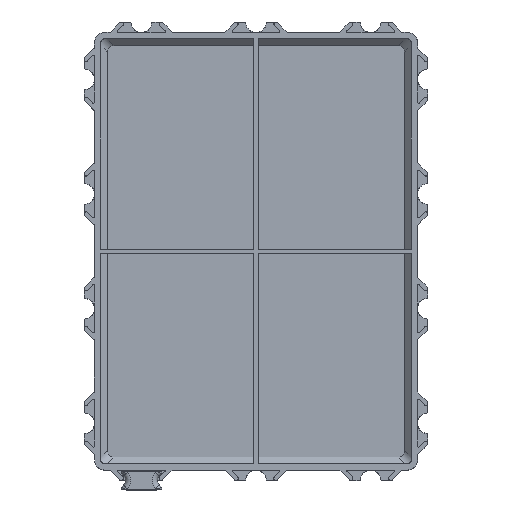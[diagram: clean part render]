
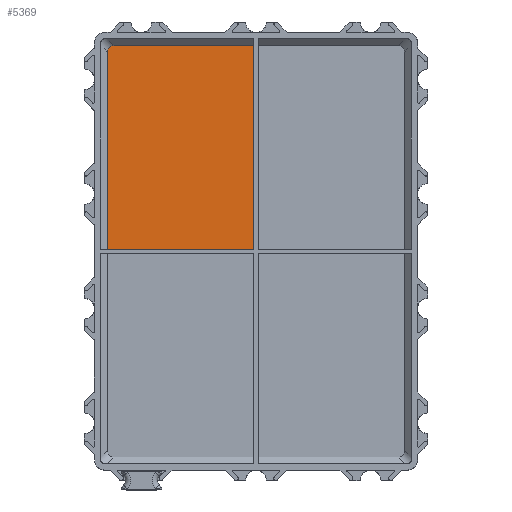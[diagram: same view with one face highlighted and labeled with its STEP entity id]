
A CAD part, top view. The second image highlights one B-rep face of the part: STEP entity #5369.
In plain terms, the highlighted planar face has unit normal (0, 0, 1).
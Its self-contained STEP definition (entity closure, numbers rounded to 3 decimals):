
#334=ELLIPSE('',#5679,3.118,1.8);
#429=FACE_OUTER_BOUND('',#711,.T.);
#711=EDGE_LOOP('',(#3366,#3367,#3368,#3369,#3370));
#1008=LINE('',#7893,#1520);
#1012=LINE('',#7904,#1524);
#1020=LINE('',#7924,#1532);
#1021=LINE('',#7926,#1533);
#1520=VECTOR('',#6252,10.);
#1524=VECTOR('',#6262,10.);
#1532=VECTOR('',#6280,10.);
#1533=VECTOR('',#6281,10.);
#2029=VERTEX_POINT('',#7885);
#2032=VERTEX_POINT('',#7891);
#2036=VERTEX_POINT('',#7903);
#2043=VERTEX_POINT('',#7923);
#2044=VERTEX_POINT('',#7925);
#2552=EDGE_CURVE('',#2029,#2032,#1008,.T.);
#2557=EDGE_CURVE('',#2036,#2029,#1012,.T.);
#2567=EDGE_CURVE('',#2032,#2043,#1020,.T.);
#2568=EDGE_CURVE('',#2043,#2044,#1021,.T.);
#2569=EDGE_CURVE('',#2044,#2036,#334,.T.);
#3366=ORIENTED_EDGE('',*,*,#2552,.T.);
#3367=ORIENTED_EDGE('',*,*,#2567,.T.);
#3368=ORIENTED_EDGE('',*,*,#2568,.T.);
#3369=ORIENTED_EDGE('',*,*,#2569,.T.);
#3370=ORIENTED_EDGE('',*,*,#2557,.T.);
#4923=PLANE('',#5678);
#5369=ADVANCED_FACE('',(#429),#4923,.F.);
#5678=AXIS2_PLACEMENT_3D('',#7922,#6278,#6279);
#5679=AXIS2_PLACEMENT_3D('',#7927,#6282,#6283);
#6252=DIRECTION('',(1.,0.,0.));
#6262=DIRECTION('',(0.,-1.,0.));
#6278=DIRECTION('center_axis',(0.,0.,-1.));
#6279=DIRECTION('ref_axis',(-1.,0.,0.));
#6280=DIRECTION('',(0.,1.,0.));
#6281=DIRECTION('',(-1.,0.,0.));
#6282=DIRECTION('center_axis',(0.,0.,1.));
#6283=DIRECTION('ref_axis',(-0.707,0.707,0.));
#7885=CARTESIAN_POINT('',(4.497,44.4,-10.));
#7891=CARTESIAN_POINT('',(32.6,44.4,-10.));
#7893=CARTESIAN_POINT('',(33.,44.4,-10.));
#7903=CARTESIAN_POINT('',(4.497,82.23,-10.));
#7904=CARTESIAN_POINT('',(4.497,33.5,-10.));
#7922=CARTESIAN_POINT('Origin',(33.,44.,-10.));
#7923=CARTESIAN_POINT('',(32.6,83.503,-10.));
#7924=CARTESIAN_POINT('',(32.6,44.,-10.));
#7925=CARTESIAN_POINT('',(5.77,83.503,-10.));
#7926=CARTESIAN_POINT('',(25.25,83.503,-10.));
#7927=CARTESIAN_POINT('Origin',(7.043,80.957,-10.));
